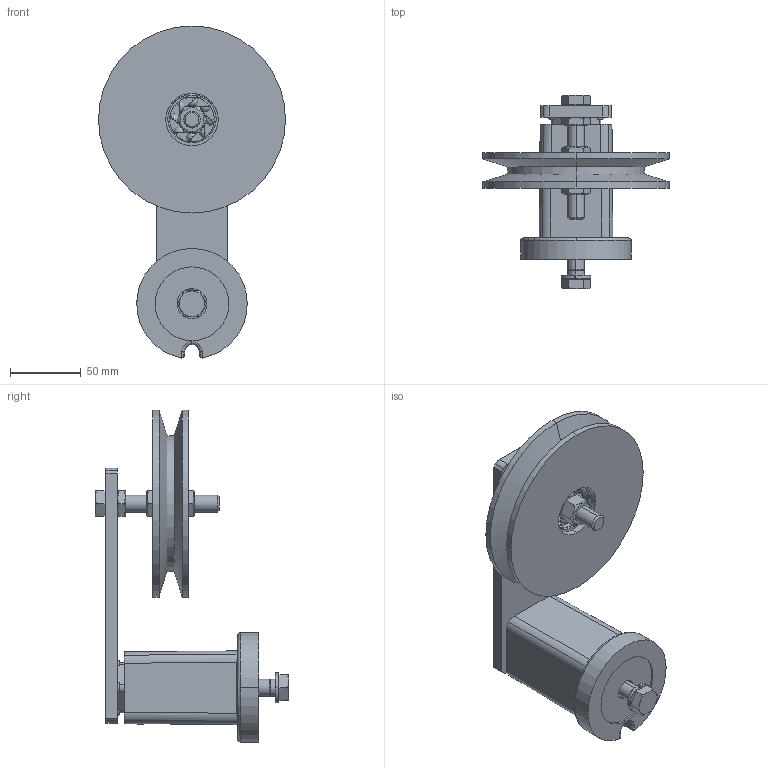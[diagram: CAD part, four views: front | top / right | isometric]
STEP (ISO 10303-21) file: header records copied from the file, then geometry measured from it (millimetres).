
FILE_DESCRIPTION((''),'2;1');
FILE_NAME('\\rostaofc\data\uw\save\daten_f\Normprogramm 3D\Spannelemente\KSE27-SPB1_06201007.stp','2004-09-28T11:22:18',('uw'),(''),'Autodesk Inventor 8','Autodesk Inventor 8','');
FILE_SCHEMA(('AUTOMOTIVE_DESIGN { 1 0 10303 214 1 1 1 1 }'));
Length unit declared in the file: millimetre
Products named in the file (18): ROSTA-Spannelement KSE 27 SPB 125-1; SE27; Spannelement-Gehäuse SE27; Gehäuse; Innenteil zu SE27; Hebel zu SE27 (m. 2- Loch); 3_10_6665-001; 3_10_6673-002; Sechskantschraube - M12 x 40; Federring - A12; SK3200-003; Keilriemenscheibe SPB 125-1 komplett; Keilriemenscheibe SPB 125-1 bearbeitet; C3; 06408558-001; Sechskantschraube - M12 x 80; Sechskantmutter - M12
Assembly tree (22 placements, depth 4):
  ROSTA-Spannelement KSE 27 SPB 125-1
    SE27
      Spannelement-Gehäuse SE27
        Gehäuse
      Innenteil zu SE27
        Hebel zu SE27 (m. 2- Loch)
        3_10_6665-001
      3_10_6673-002  x4
      Sechskantschraube - M12 x 40
      Federring - A12
      SK3200-003
    Keilriemenscheibe SPB 125-1 komplett
      Keilriemenscheibe SPB 125-1 bearbeitet
      C3
      06408558-001  x2
    Sechskantschraube - M12 x 80
    Sechskantmutter - M12
    Sechskantmutter - M12  x2
Bounding box: 132 x 136.5 x 234.28 mm (x, y, z)
Volume: 562050.9 mm3; surface area: 161343.5 mm2
Topology: 19 solids, 27 shells, 439 faces, 1096 edges, 661 vertices
Faces by surface type: cylinder 148, plane 140, bspline 62, cone 49, sphere 26, torus 14
Entity records: 12426 total; most frequent: CARTESIAN_POINT 2986, DIRECTION 2091, ORIENTED_EDGE 1812, EDGE_CURVE 906, AXIS2_PLACEMENT_3D 876, VERTEX_POINT 557, CIRCLE 470, EDGE_LOOP 440
